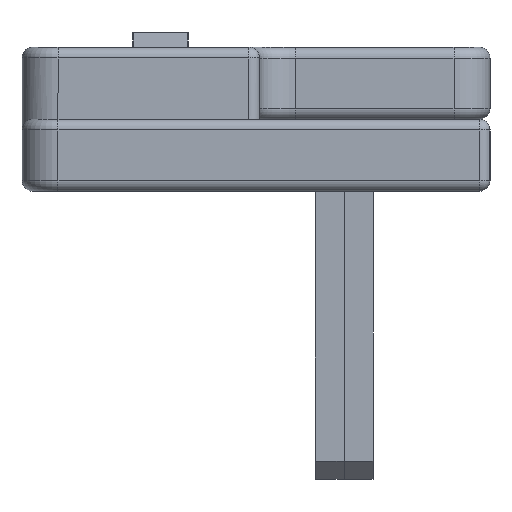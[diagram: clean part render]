
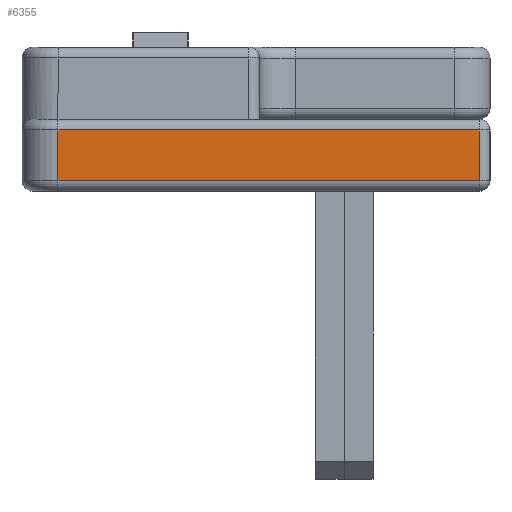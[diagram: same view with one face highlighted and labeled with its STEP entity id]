
A CAD part, left-side view. The second image highlights one B-rep face of the part: STEP entity #6355.
In plain terms, the highlighted planar face has unit normal (-1, 0, 0).
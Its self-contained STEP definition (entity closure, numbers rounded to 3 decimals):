
#102 = VERTEX_POINT ( 'NONE', #7011 ) ;
#184 = CARTESIAN_POINT ( 'NONE',  ( 0., 0., 12. ) ) ;
#259 = DIRECTION ( 'NONE',  ( 0., 0., 1. ) ) ;
#823 = DIRECTION ( 'NONE',  ( 0., 0., 1. ) ) ;
#850 = PLANE ( 'NONE',  #6017 ) ;
#875 = VERTEX_POINT ( 'NONE', #2040 ) ;
#1225 = VERTEX_POINT ( 'NONE', #1560 ) ;
#1297 = LINE ( 'NONE', #6482, #2307 ) ;
#1560 = CARTESIAN_POINT ( 'NONE',  ( 0., 0.3, 9.7 ) ) ;
#1935 = VECTOR ( 'NONE', #3179, 1000. ) ;
#2033 = LINE ( 'NONE', #3215, #1935 ) ;
#2040 = CARTESIAN_POINT ( 'NONE',  ( 0., 0.3, 8.3 ) ) ;
#2087 = DIRECTION ( 'NONE',  ( 0., -1., 0. ) ) ;
#2160 = CARTESIAN_POINT ( 'NONE',  ( 0., 0., 8.3 ) ) ;
#2307 = VECTOR ( 'NONE', #823, 1000. ) ;
#3179 = DIRECTION ( 'NONE',  ( 0., 0., -1. ) ) ;
#3215 = CARTESIAN_POINT ( 'NONE',  ( 0., 12., 12. ) ) ;
#3249 = LINE ( 'NONE', #7323, #4899 ) ;
#3361 = DIRECTION ( 'NONE',  ( 0., 1., 0. ) ) ;
#3487 = ORIENTED_EDGE ( 'NONE', *, *, #4305, .T. ) ;
#3673 = ORIENTED_EDGE ( 'NONE', *, *, #6722, .T. ) ;
#3800 = EDGE_CURVE ( 'NONE', #875, #1225, #1297, .T. ) ;
#4155 = DIRECTION ( 'NONE',  ( -1., 0., 0. ) ) ;
#4305 = EDGE_CURVE ( 'NONE', #1225, #102, #3249, .T. ) ;
#4899 = VECTOR ( 'NONE', #3361, 1000. ) ;
#5005 = VECTOR ( 'NONE', #2087, 1000. ) ;
#5323 = FACE_OUTER_BOUND ( 'NONE', #7089, .T. ) ;
#5896 = EDGE_CURVE ( 'NONE', #6329, #875, #7275, .T. ) ;
#6017 = AXIS2_PLACEMENT_3D ( 'NONE', #184, #4155, #259 ) ;
#6020 = ORIENTED_EDGE ( 'NONE', *, *, #5896, .T. ) ;
#6329 = VERTEX_POINT ( 'NONE', #6439 ) ;
#6355 = ADVANCED_FACE ( 'NONE', ( #5323 ), #850, .T. ) ;
#6439 = CARTESIAN_POINT ( 'NONE',  ( 0., 12., 8.3 ) ) ;
#6482 = CARTESIAN_POINT ( 'NONE',  ( 0., 0.3, 12. ) ) ;
#6722 = EDGE_CURVE ( 'NONE', #102, #6329, #2033, .T. ) ;
#6771 = ORIENTED_EDGE ( 'NONE', *, *, #3800, .T. ) ;
#7011 = CARTESIAN_POINT ( 'NONE',  ( 0., 12., 9.7 ) ) ;
#7089 = EDGE_LOOP ( 'NONE', ( #3673, #6020, #6771, #3487 ) ) ;
#7275 = LINE ( 'NONE', #2160, #5005 ) ;
#7323 = CARTESIAN_POINT ( 'NONE',  ( 0., 0., 9.7 ) ) ;
